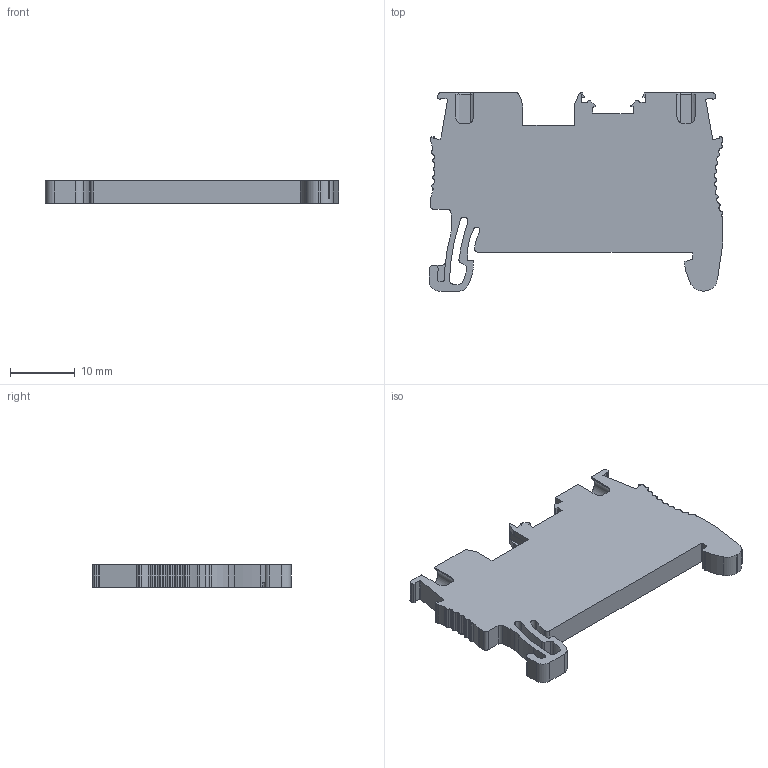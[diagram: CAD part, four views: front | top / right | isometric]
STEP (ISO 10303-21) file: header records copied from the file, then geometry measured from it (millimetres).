
FILE_DESCRIPTION((''),'2;1');
FILE_NAME('UPT-1-5ASSY','2024-03-29T15:49:49',('Administrator'),(''),'CREO PARAMETRIC BY PTC INC, 2018050','CREO PARAMETRIC BY PTC INC, 2018050','');
FILE_SCHEMA(('CONFIG_CONTROL_DESIGN'));
Length unit declared in the file: millimetre
Products named in the file (1): UPT-1-5ASSY
Bounding box: 45.2 x 30.5 x 3.5 mm (x, y, z)
Volume: 3359.5 mm3; surface area: 3197.2 mm2
Topology: 1 solids, 1 shells, 734 faces, 2022 edges, 1266 vertices
Faces by surface type: cylinder 346, plane 285, torus 34, sphere 32, cone 23, extrusion 8, bspline 6
Entity records: 24746 total; most frequent: CARTESIAN_POINT 5988, ORIENTED_EDGE 3986, DIRECTION 3966, EDGE_CURVE 1993, AXIS2_PLACEMENT_3D 1416, VERTEX_POINT 1266, VECTOR 1134, LINE 1126
